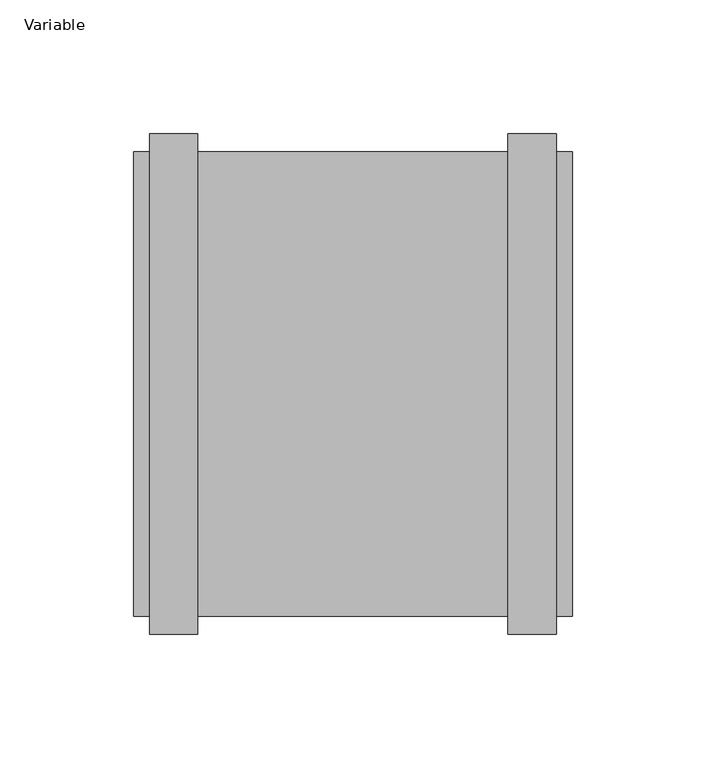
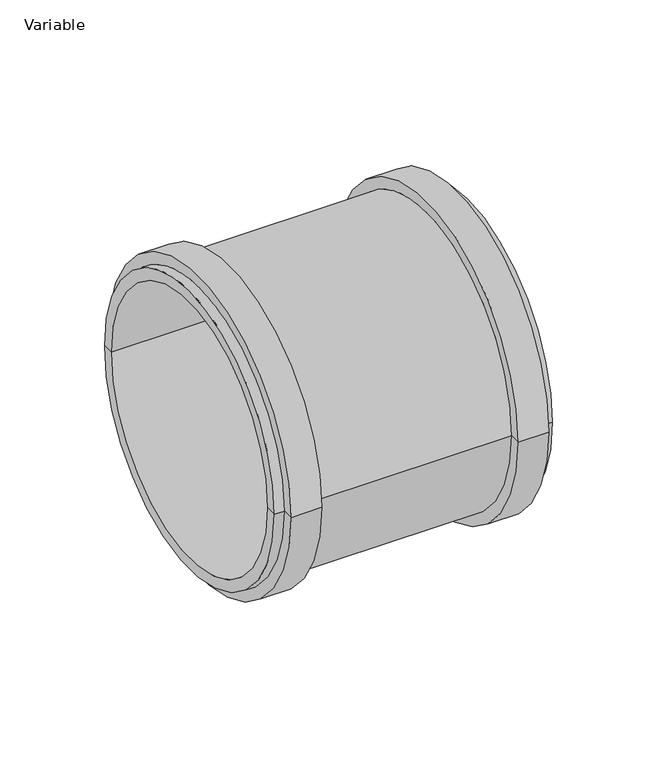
"""IFC4 building model written with IfcOpenShell, lengths in millimetres: pipe fitting geometry, AliaxisFR_Friaphon_SimpleCoupling_FR : Variable."""

from ifc_helpers import new_model, si_unit, frame, origin, place, context, project, spatial, polyline, circle_curve, source, transform, mapped, element, save
from ifc_brep_helpers import plane_surface, cylinder_surface, revolved_surface, advanced_brep


def variable_6a8a9c96(model_context):
    return source(origin(), model_context, "Body", "AdvancedBrep", [
        advanced_brep(
        [(85.0, -86.75, 0.0), (85.0, 86.75, 0.0), (85.0, 80.0, 0.0), (85.0, -80.0, 0.0), (79.0, -86.75, 0.0), (79.0, 86.75, 0.0), (79.0, -93.5, 0.0), (79.0, 93.5, 0.0), (61.0, -93.5, 0.0), (61.0, 93.5, 0.0), (61.0, -86.75, 0.0), (61.0, 86.75, 0.0), (-55.0, -86.75, 0.0), (-55.0, 86.75, 0.0), (-55.0, -93.5, 0.0), (-55.0, 93.5, 0.0), (-73.0, -93.5, 0.0), (-73.0, 93.5, 0.0), (-73.0, -86.75, 0.0), (-73.0, 86.75, 0.0), (-79.0, -86.75, 0.0), (-79.0, 86.75, 0.0), (-79.0, -80.0, 0.0), (-79.0, 80.0, 0.0)],
        [
            (0, 1, circle_curve(frame((85.0, 0.0, 0.0), z_axis=(1.0, 0.0, 0.0), x_axis=(0.0, 1.0, 0.0)), 86.75)),
            (1, 2),
            (2, 3, circle_curve(frame((85.0, 0.0, 0.0), z_axis=(-1.0, 0.0, 0.0), x_axis=(0.0, 1.0, 0.0)), 80.0)),
            (3, 0),
            (1, 0, circle_curve(frame((85.0, 0.0, 0.0), z_axis=(1.0, 0.0, 0.0), x_axis=(0.0, 1.0, 0.0)), 86.75)),
            (3, 2, circle_curve(frame((85.0, 0.0, 0.0), z_axis=(-1.0, 0.0, 0.0), x_axis=(0.0, 1.0, 0.0)), 80.0)),
            (4, 5, circle_curve(frame((79.0, 0.0, 0.0), z_axis=(1.0, 0.0, 0.0), x_axis=(0.0, 1.0, 0.0)), 86.75)),
            (5, 1),
            (0, 4),
            (5, 4, circle_curve(frame((79.0, 0.0, 0.0), z_axis=(1.0, 0.0, 0.0), x_axis=(0.0, 1.0, 0.0)), 86.75)),
            (6, 7, circle_curve(frame((79.0, 0.0, 0.0), z_axis=(1.0, 0.0, 0.0), x_axis=(0.0, 1.0, 0.0)), 93.5)),
            (7, 5),
            (4, 6),
            (7, 6, circle_curve(frame((79.0, 0.0, 0.0), z_axis=(1.0, 0.0, 0.0), x_axis=(0.0, 1.0, 0.0)), 93.5)),
            (8, 9, circle_curve(frame((61.0, 0.0, 0.0), z_axis=(1.0, 0.0, 0.0), x_axis=(0.0, 1.0, 0.0)), 93.5)),
            (9, 7),
            (6, 8),
            (9, 8, circle_curve(frame((61.0, 0.0, 0.0), z_axis=(1.0, 0.0, 0.0), x_axis=(0.0, 1.0, 0.0)), 93.5)),
            (10, 11, circle_curve(frame((61.0, 0.0, 0.0), z_axis=(1.0, 0.0, 0.0), x_axis=(0.0, 1.0, 0.0)), 86.75)),
            (11, 9),
            (8, 10),
            (11, 10, circle_curve(frame((61.0, 0.0, 0.0), z_axis=(1.0, 0.0, 0.0), x_axis=(0.0, 1.0, 0.0)), 86.75)),
            (12, 13, circle_curve(frame((-55.0, 0.0, 0.0), z_axis=(1.0, 0.0, 0.0), x_axis=(0.0, 1.0, 0.0)), 86.75)),
            (13, 11),
            (10, 12),
            (13, 12, circle_curve(frame((-55.0, 0.0, 0.0), z_axis=(1.0, 0.0, 0.0), x_axis=(0.0, 1.0, 0.0)), 86.75)),
            (14, 15, circle_curve(frame((-55.0, 0.0, 0.0), z_axis=(1.0, 0.0, 0.0), x_axis=(0.0, 1.0, 0.0)), 93.5)),
            (15, 13),
            (12, 14),
            (15, 14, circle_curve(frame((-55.0, 0.0, 0.0), z_axis=(1.0, 0.0, 0.0), x_axis=(0.0, 1.0, 0.0)), 93.5)),
            (16, 17, circle_curve(frame((-73.0, 0.0, 0.0), z_axis=(1.0, 0.0, 0.0), x_axis=(0.0, 1.0, 0.0)), 93.5)),
            (17, 15),
            (14, 16),
            (17, 16, circle_curve(frame((-73.0, 0.0, 0.0), z_axis=(1.0, 0.0, 0.0), x_axis=(0.0, 1.0, 0.0)), 93.5)),
            (18, 19, circle_curve(frame((-73.0, 0.0, 0.0), z_axis=(1.0, 0.0, 0.0), x_axis=(0.0, 1.0, 0.0)), 86.75)),
            (19, 17),
            (16, 18),
            (19, 18, circle_curve(frame((-73.0, 0.0, 0.0), z_axis=(1.0, 0.0, 0.0), x_axis=(0.0, 1.0, 0.0)), 86.75)),
            (20, 21, circle_curve(frame((-79.0, 0.0, 0.0), z_axis=(1.0, 0.0, 0.0), x_axis=(0.0, 1.0, 0.0)), 86.75)),
            (21, 19),
            (18, 20),
            (21, 20, circle_curve(frame((-79.0, 0.0, 0.0), z_axis=(1.0, 0.0, 0.0), x_axis=(0.0, 1.0, 0.0)), 86.75)),
            (22, 23, circle_curve(frame((-79.0, 0.0, 0.0), z_axis=(1.0, 0.0, 0.0), x_axis=(0.0, 1.0, 0.0)), 80.0)),
            (23, 21),
            (20, 22),
            (23, 22, circle_curve(frame((-79.0, 0.0, 0.0), z_axis=(1.0, 0.0, 0.0), x_axis=(0.0, 1.0, 0.0)), 80.0)),
            (2, 23),
            (22, 3),
        ],
        [
            plane_surface(frame((85.0, 0.0, 0.0), z_axis=(1.0, 0.0, 0.0), x_axis=(0.0, 1.0, 0.0))),
            cylinder_surface(frame((2033.0, 0.0, 0.0), z_axis=(-1.0, 0.0, 0.0), x_axis=(0.0, 1.0, 0.0)), 86.75),
            plane_surface(frame((79.0, 0.0, 0.0), z_axis=(1.0, 0.0, 0.0), x_axis=(0.0, 1.0, 0.0))),
            cylinder_surface(frame((2033.0, 0.0, 0.0), z_axis=(-1.0, 0.0, 0.0), x_axis=(0.0, 1.0, 0.0)), 93.5),
            plane_surface(frame((61.0, 0.0, 0.0), z_axis=(-1.0, 0.0, 0.0), x_axis=(0.0, 1.0, 0.0))),
            plane_surface(frame((-55.0, 0.0, 0.0), z_axis=(1.0, 0.0, 0.0), x_axis=(0.0, 1.0, 0.0))),
            plane_surface(frame((-73.0, 0.0, 0.0), z_axis=(-1.0, 0.0, 0.0), x_axis=(0.0, 1.0, 0.0))),
            plane_surface(frame((-79.0, 0.0, 0.0), z_axis=(-1.0, 0.0, 0.0), x_axis=(0.0, 1.0, 0.0))),
            revolved_surface(polyline([(-79.0, 80.0, 0.0), (85.0, 80.0, 0.0)]), (2033.0, 0.0, 0.0), (-1.0, 0.0, 0.0)),
        ],
        [
            (0, [[1, 2, 3, 4]]),
            (0, [[5, -4, 6, -2]]),
            (1, [[7, 8, -1, 9]]),
            (1, [[10, -9, -5, -8]]),
            (2, [[11, 12, -7, 13]]),
            (2, [[14, -13, -10, -12]]),
            (3, [[15, 16, -11, 17]]),
            (3, [[18, -17, -14, -16]]),
            (4, [[19, 20, -15, 21]]),
            (4, [[22, -21, -18, -20]]),
            (1, [[23, 24, -19, 25]]),
            (1, [[26, -25, -22, -24]]),
            (5, [[27, 28, -23, 29]]),
            (5, [[30, -29, -26, -28]]),
            (3, [[31, 32, -27, 33]]),
            (3, [[34, -33, -30, -32]]),
            (6, [[35, 36, -31, 37]]),
            (6, [[38, -37, -34, -36]]),
            (1, [[39, 40, -35, 41]]),
            (1, [[42, -41, -38, -40]]),
            (7, [[43, 44, -39, 45]]),
            (7, [[46, -45, -42, -44]]),
            (8, [[-3, 47, -43, 48]]),
            (8, [[-6, -48, -46, -47]]),
        ],
    ),
    ])


if __name__ == "__main__":
    model = new_model("IFC4")
    model_context = context("Model", 3, world=origin())
    ifc_project = project(units=[si_unit("LENGTHUNIT", "METRE", prefix="MILLI")], contexts=[model_context])
    site = spatial("IfcSite", under=ifc_project)
    building = spatial("IfcBuilding", under=site)
    placement = place(None, origin())
    variable_shape = variable_6a8a9c96(model_context)
    element("IfcPipeFitting", 1, ObjectType="AliaxisFR_Friaphon_SimpleCoupling_FR : Variable", at=placement, inside=building, context=model_context, shape_type="MappedRepresentation", body=[
        mapped(variable_shape, transform((0.0, 0.0, 0.0), x_axis=(1.0, 0.0, 0.0), y_axis=(0.0, 1.0, 0.0), z_axis=(0.0, 0.0, 1.0))),
    ])
    save(model, "model.ifc")
